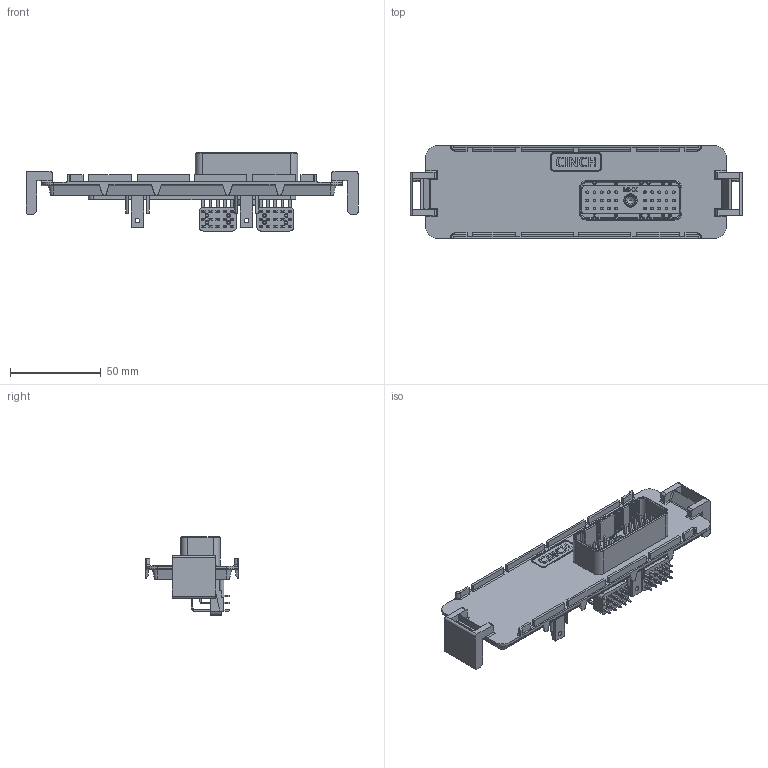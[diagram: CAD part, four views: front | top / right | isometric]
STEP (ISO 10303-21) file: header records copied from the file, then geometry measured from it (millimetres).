
FILE_DESCRIPTION((''),'2;1');
FILE_NAME('5810130051_ASM','2008-07-08T',('eake'),(''),'PRO/ENGINEER BY PARAMETRIC TECHNOLOGY CORPORATION, 2005451','PRO/ENGINEER BY PARAMETRIC TECHNOLOGY CORPORATION, 2005451','');
FILE_SCHEMA(('CONFIG_CONTROL_DESIGN'));
Length unit declared in the file: inch
Products named in the file (10): FOR4828770158; 4624111583HEX; 4828770158_ASM; 4040011205_TYPE1; 4040011206_TYPE2; 4040011207_TYPE3; 5810148005_15PIN_EPOXY; 4630899118; 4741199176; 5810130051_ASM
Assembly tree (38 placements, depth 3):
  5810130051_ASM
    4828770158_ASM
      FOR4828770158
      4624111583HEX
    4040011205_TYPE1  x10
    4040011206_TYPE2  x10
    4040011207_TYPE3  x10
    5810148005_15PIN_EPOXY  x2
    4630899118
    4741199176  x2
Bounding box: 182.63 x 50.93 x 42.96 mm (x, y, z)
Volume: 47130.6 mm3; surface area: 62593.4 mm2
Topology: 37 solids, 37 shells, 3819 faces, 10420 edges, 6658 vertices
Faces by surface type: plane 2681, cylinder 1032, torus 46, sphere 28, bspline 22, cone 10
Entity records: 70502 total; most frequent: CARTESIAN_POINT 14803, ORIENTED_EDGE 11704, DIRECTION 11183, EDGE_CURVE 5852, VECTOR 4507, LINE 4507, VERTEX_POINT 3726, AXIS2_PLACEMENT_3D 3338
